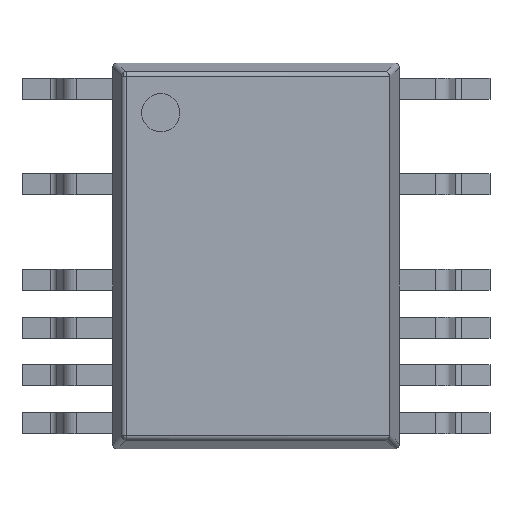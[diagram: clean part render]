
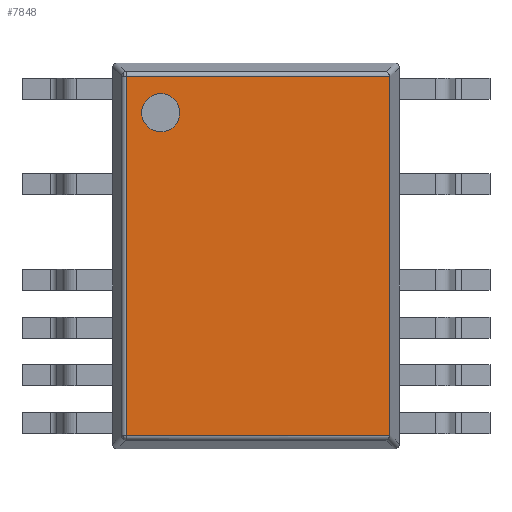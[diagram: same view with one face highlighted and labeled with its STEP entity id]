
A CAD part, top view. The second image highlights one B-rep face of the part: STEP entity #7848.
In plain terms, the highlighted planar face has unit normal (0, 0, 1).
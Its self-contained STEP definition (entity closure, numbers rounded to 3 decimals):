
#115 =( BOUNDED_CURVE ( )  B_SPLINE_CURVE ( 3, ( #3556, #4267, #4329, #2696 ),
 .UNSPECIFIED., .F., .F. ) 
 B_SPLINE_CURVE_WITH_KNOTS ( ( 4, 4 ),
 ( 2.386, 2.572 ),
 .UNSPECIFIED. ) 
 CURVE ( )  GEOMETRIC_REPRESENTATION_ITEM ( )  RATIONAL_B_SPLINE_CURVE ( ( 1., 0.997, 0.997, 1. ) ) 
 REPRESENTATION_ITEM ( '' )  );
#146 = ORIENTED_EDGE ( 'NONE', *, *, #9868, .T. ) ;
#694 = CARTESIAN_POINT ( 'NONE',  ( 0., 1.88, 1.1 ) ) ;
#865 = CARTESIAN_POINT ( 'NONE',  ( 1.4, 0., 1.1 ) ) ;
#1787 = EDGE_LOOP ( 'NONE', ( #3537, #146, #7857, #4909, #7113, #1875 ) ) ;
#1875 = ORIENTED_EDGE ( 'NONE', *, *, #10343, .T. ) ;
#2008 = FACE_OUTER_BOUND ( 'NONE', #1787, .T. ) ;
#2037 = VERTEX_POINT ( 'NONE', #7075 ) ;
#2072 = CARTESIAN_POINT ( 'NONE',  ( 1.399, 1.88, 1.1 ) ) ;
#2445 = CARTESIAN_POINT ( 'NONE',  ( 1.4, -1.874, 1.1 ) ) ;
#2609 = EDGE_CURVE ( 'NONE', #7210, #2037, #5381, .T. ) ;
#2613 = CARTESIAN_POINT ( 'NONE',  ( 1.399, -1.88, 1.1 ) ) ;
#2696 = CARTESIAN_POINT ( 'NONE',  ( 1.399, 1.88, 1.1 ) ) ;
#2736 = AXIS2_PLACEMENT_3D ( 'NONE', #10582, #3724, #8004 ) ;
#2845 = VERTEX_POINT ( 'NONE', #2613 ) ;
#3268 = DIRECTION ( 'NONE',  ( -1., 0., 0. ) ) ;
#3537 = ORIENTED_EDGE ( 'NONE', *, *, #2609, .T. ) ;
#3556 = CARTESIAN_POINT ( 'NONE',  ( 1.4, 1.871, 1.1 ) ) ;
#3563 = LINE ( 'NONE', #865, #4777 ) ;
#3665 = DIRECTION ( 'NONE',  ( 0., -1., 0. ) ) ;
#3672 = VERTEX_POINT ( 'NONE', #6690 ) ;
#3724 = DIRECTION ( 'NONE',  ( 0., 0., 1. ) ) ;
#3830 = PLANE ( 'NONE',  #2736 ) ;
#4267 = CARTESIAN_POINT ( 'NONE',  ( 1.4, 1.874, 1.1 ) ) ;
#4329 = CARTESIAN_POINT ( 'NONE',  ( 1.4, 1.877, 1.1 ) ) ;
#4777 = VECTOR ( 'NONE', #5105, 1000. ) ;
#4909 = ORIENTED_EDGE ( 'NONE', *, *, #9424, .T. ) ;
#5105 = DIRECTION ( 'NONE',  ( 0., 1., 0. ) ) ;
#5211 = VECTOR ( 'NONE', #3268, 1000. ) ;
#5253 = CARTESIAN_POINT ( 'NONE',  ( 0., -1.88, 1.1 ) ) ;
#5381 = LINE ( 'NONE', #9562, #10418 ) ;
#5913 = VERTEX_POINT ( 'NONE', #9364 ) ;
#5938 = DIRECTION ( 'NONE',  ( 1., 0., 0. ) ) ;
#6690 = CARTESIAN_POINT ( 'NONE',  ( 1.4, 1.871, 1.1 ) ) ;
#6778 =( BOUNDED_CURVE ( )  B_SPLINE_CURVE ( 3, ( #7643, #10160, #2445, #7435 ),
 .UNSPECIFIED., .F., .F. ) 
 B_SPLINE_CURVE_WITH_KNOTS ( ( 4, 4 ),
 ( 3.711, 3.898 ),
 .UNSPECIFIED. ) 
 CURVE ( )  GEOMETRIC_REPRESENTATION_ITEM ( )  RATIONAL_B_SPLINE_CURVE ( ( 1., 0.997, 0.997, 1. ) ) 
 REPRESENTATION_ITEM ( '' )  );
#6970 = EDGE_CURVE ( 'NONE', #3672, #9507, #115, .T. ) ;
#7075 = CARTESIAN_POINT ( 'NONE',  ( -1.361, -1.88, 1.1 ) ) ;
#7092 = LINE ( 'NONE', #694, #5211 ) ;
#7113 = ORIENTED_EDGE ( 'NONE', *, *, #6970, .T. ) ;
#7210 = VERTEX_POINT ( 'NONE', #11125 ) ;
#7435 = CARTESIAN_POINT ( 'NONE',  ( 1.4, -1.871, 1.1 ) ) ;
#7643 = CARTESIAN_POINT ( 'NONE',  ( 1.399, -1.88, 1.1 ) ) ;
#7848 = ADVANCED_FACE ( 'NONE', ( #2008 ), #3830, .T. ) ;
#7857 = ORIENTED_EDGE ( 'NONE', *, *, #10535, .T. ) ;
#8004 = DIRECTION ( 'NONE',  ( 0., -1., 0. ) ) ;
#8629 = VECTOR ( 'NONE', #5938, 1000. ) ;
#9364 = CARTESIAN_POINT ( 'NONE',  ( 1.4, -1.871, 1.1 ) ) ;
#9424 = EDGE_CURVE ( 'NONE', #5913, #3672, #3563, .T. ) ;
#9507 = VERTEX_POINT ( 'NONE', #2072 ) ;
#9562 = CARTESIAN_POINT ( 'NONE',  ( -1.361, 0., 1.1 ) ) ;
#9868 = EDGE_CURVE ( 'NONE', #2037, #2845, #10449, .T. ) ;
#10160 = CARTESIAN_POINT ( 'NONE',  ( 1.4, -1.877, 1.1 ) ) ;
#10343 = EDGE_CURVE ( 'NONE', #9507, #7210, #7092, .T. ) ;
#10418 = VECTOR ( 'NONE', #3665, 1000. ) ;
#10449 = LINE ( 'NONE', #5253, #8629 ) ;
#10535 = EDGE_CURVE ( 'NONE', #2845, #5913, #6778, .T. ) ;
#10582 = CARTESIAN_POINT ( 'NONE',  ( 0., 0., 1.1 ) ) ;
#11125 = CARTESIAN_POINT ( 'NONE',  ( -1.361, 1.88, 1.1 ) ) ;
